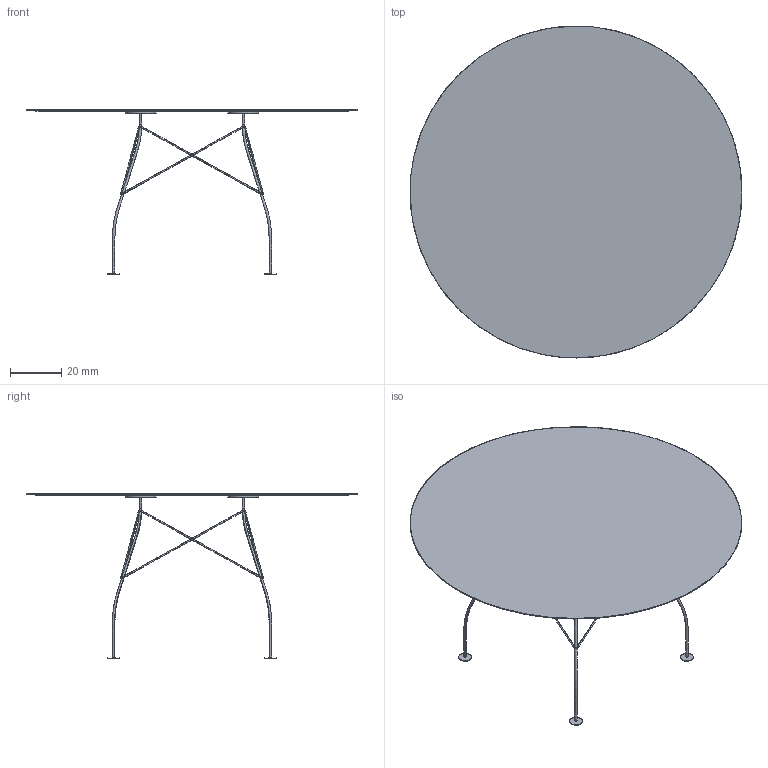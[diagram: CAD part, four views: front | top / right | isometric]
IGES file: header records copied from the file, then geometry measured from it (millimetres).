
Global section: file name: C:\Users\rendering\Desktop\3D rifatti\04561\Glossy_Antonio Citterio e Oliver Low_Kartell_3D.igs; native system: Rhinoceros ( May 22 2017 ); preprocessor: Trout Lake IGES 012 May 22 2017; date: 180828.111910; units: millimetre
Bounding box: 130 x 130 x 64.76 mm (x, y, z)
Surface area: 55976.4 mm2 (no closed solid volume)
Topology: 0 solids, 0 shells, 74 faces, 503 edges, 474 vertices
Faces by surface type: bspline 74
